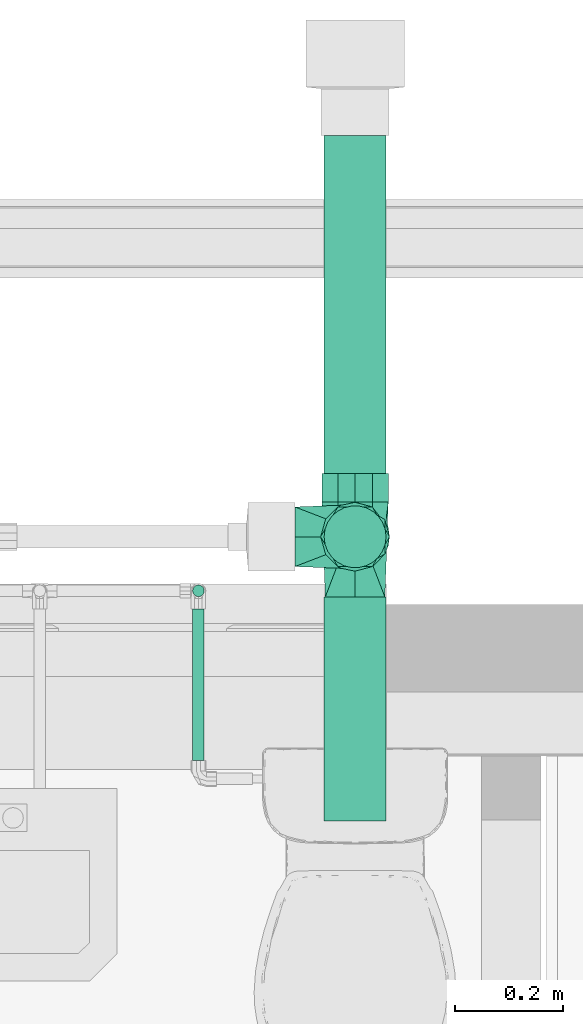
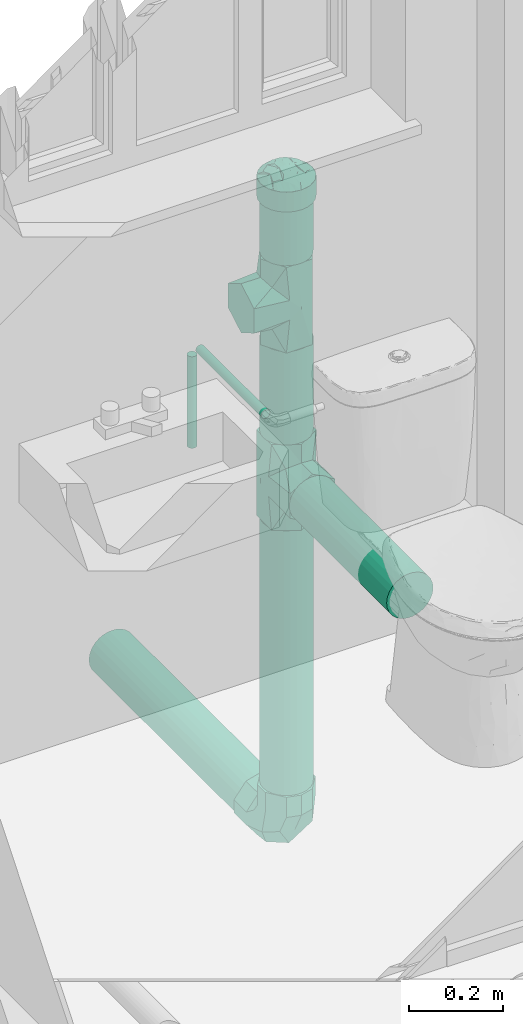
# One storey, part 25 of 41: 7 flow segments, 4 flow fittings.
"""IFC2X3 building model written with IfcOpenShell, lengths in millimetres."""

from ifc_helpers import new_model, entity, si_unit, converted_unit, derived_unit, direction, frame, frame_2d, origin, origin_2d_with_axis, place, context, subcontext, project, spatial, circle, extrude, faceted_brep, source, transform, mapped, type_object, type_shapes, element, save


model = new_model("IFC2X3")

# Units and contexts
model_context = context("Model", 3, precision=0.01, world=origin(), true_north=direction((6.12303176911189e-17, 1.0)))
body_context = subcontext(model_context, "Body", "Model", "MODEL_VIEW")
ifc_project = project(units=[si_unit("LENGTHUNIT", "METRE", prefix="MILLI"), si_unit("AREAUNIT", "SQUARE_METRE"), si_unit("VOLUMEUNIT", "CUBIC_METRE"), converted_unit("PLANEANGLEUNIT", "DEGREE", entity("IfcRatioMeasure", 0.0174532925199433), si_unit("PLANEANGLEUNIT", "RADIAN"), dimensions=[0, 0, 0, 0, 0, 0, 0]), si_unit("MASSUNIT", "GRAM", prefix="KILO"), derived_unit("MASSDENSITYUNIT", [(si_unit("MASSUNIT", "GRAM", prefix="KILO"), 1), (si_unit("LENGTHUNIT", "METRE"), -3)]), si_unit("TIMEUNIT", "SECOND"), si_unit("FREQUENCYUNIT", "HERTZ"), si_unit("THERMODYNAMICTEMPERATUREUNIT", "DEGREE_CELSIUS"), derived_unit("THERMALTRANSMITTANCEUNIT", [(si_unit("MASSUNIT", "GRAM", prefix="KILO"), 1), (si_unit("THERMODYNAMICTEMPERATUREUNIT", "KELVIN"), -1), (si_unit("TIMEUNIT", "SECOND"), -3)]), derived_unit("VOLUMETRICFLOWRATEUNIT", [(si_unit("LENGTHUNIT", "METRE"), 3), (si_unit("TIMEUNIT", "SECOND"), -1)]), si_unit("ELECTRICCURRENTUNIT", "AMPERE"), si_unit("ELECTRICVOLTAGEUNIT", "VOLT"), si_unit("POWERUNIT", "WATT"), si_unit("FORCEUNIT", "NEWTON", prefix="KILO"), si_unit("ILLUMINANCEUNIT", "LUX"), si_unit("LUMINOUSFLUXUNIT", "LUMEN"), si_unit("LUMINOUSINTENSITYUNIT", "CANDELA"), derived_unit("USERDEFINED", [(si_unit("MASSUNIT", "GRAM", prefix="KILO"), -1), (si_unit("LENGTHUNIT", "METRE"), -2), (si_unit("TIMEUNIT", "SECOND"), 3), (si_unit("LUMINOUSFLUXUNIT", "LUMEN"), 1)]), derived_unit("LINEARVELOCITYUNIT", [(si_unit("LENGTHUNIT", "METRE"), 1), (si_unit("TIMEUNIT", "SECOND"), -1)]), si_unit("PRESSUREUNIT", "PASCAL"), derived_unit("USERDEFINED", [(si_unit("LENGTHUNIT", "METRE"), -2), (si_unit("MASSUNIT", "GRAM", prefix="KILO"), 1), (si_unit("TIMEUNIT", "SECOND"), -2)])], contexts=[model_context])

# Site, building, storey
site_placement = place(None, origin())
site = spatial("IfcSite", under=ifc_project, at=site_placement, Name="Surface", CompositionType="ELEMENT")
building_placement = place(site_placement, origin())
building = spatial("IfcBuilding", under=site, at=building_placement, CompositionType="ELEMENT")
storey_placement = place(building_placement, frame((0.0, 0.0, 300.0)))
storey = spatial("IfcBuildingStorey", under=building, at=storey_placement, Name="F.F.L", CompositionType="ELEMENT", Elevation=300.0)

# Flow segments
pipe_segment_type = type_object("IfcPipeSegmentType", Name="Pipe Types:PVC80", PredefinedType="NOTDEFINED")
flow_segment_1_placement = place(storey_placement, origin())
element("IfcFlowSegment", 1, at=flow_segment_1_placement, inside=storey, type_object=pipe_segment_type, Name="Pipe Types:PVC80", ObjectType="Pipe Types:PVC80", context=body_context, shape_type="SweptSolid", body=[
    extrude(circle(Radius=57.15, at=frame_2d((0.0, -6.76791955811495e-14), x_axis=(1.0, 0.0))), frame((-1290.12925728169, 10425.8400891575, 185.0), z_axis=(0.0, 1.0, 0.0), x_axis=(1.0, 0.0, 0.0)), (0.0, 0.0, 1.0), 413.518830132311),
])
flow_segment_2_placement = place(storey_placement, origin())
element("IfcFlowSegment", 2, at=flow_segment_2_placement, inside=storey, type_object=pipe_segment_type, Name="Pipe Types:PVC80", ObjectType="Pipe Types:PVC80", context=body_context, shape_type="SweptSolid", body=[
    extrude(circle(Radius=10.668, at=frame_2d((0.0, -4.399593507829e-27), x_axis=(1.0, 0.0))), frame((-1579.03439711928, 10537.5776391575, 688.0), z_axis=(0.0, 1.0, 0.0), x_axis=(1.0, 0.0, 0.0)), (0.0, 0.0, 1.0), 279.524900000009),
])
flow_segment_3_placement = place(storey_placement, origin())
element("IfcFlowSegment", 3, at=flow_segment_3_placement, inside=storey, type_object=pipe_segment_type, Name="Pipe Types:PVC80", ObjectType="Pipe Types:PVC80", context=body_context, shape_type="SweptSolid", body=[
    extrude(circle(Radius=10.668, at=origin_2d_with_axis()), frame((-1579.03439711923, 10850.8400891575, 416.937550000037)), (0.0, 0.0, 1.0), 237.324899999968),
])
flow_segment_4_placement = place(storey_placement, origin())
element("IfcFlowSegment", 4, at=flow_segment_4_placement, inside=storey, type_object=pipe_segment_type, Name="Pipe Types:PVC80", ObjectType="Pipe Types:PVC80", context=body_context, shape_type="SweptSolid", body=[
    extrude(circle(Radius=57.15, at=frame_2d((2.70716782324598e-13, 0.0), x_axis=(1.0, 0.0))), frame((-1290.12925728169, 10950.4839192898, -612.593982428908)), (0.0, 0.0, 1.0), 686.468982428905),
])
flow_segment_5_placement = place(storey_placement, origin())
element("IfcFlowSegment", 5, at=flow_segment_5_placement, inside=storey, type_object=pipe_segment_type, Name="Pipe Types:PVC80", ObjectType="Pipe Types:PVC80", context=body_context, shape_type="SweptSolid", body=[
    extrude(circle(Radius=57.15, at=origin_2d_with_axis()), frame((-1290.12925728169, 11067.1778692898, -729.287932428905), z_axis=(0.0, 1.0, 0.0), x_axis=(1.0, 0.0, 0.0)), (0.0, 0.0, 1.0), 623.386910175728),
])
flow_segment_6_placement = place(storey_placement, origin())
element("IfcFlowSegment", 6, at=flow_segment_6_placement, inside=storey, type_object=pipe_segment_type, Name="Pipe Types:PVC80", ObjectType="Pipe Types:PVC80", context=body_context, shape_type="SweptSolid", body=[
    extrude(circle(Radius=57.15, at=origin_2d_with_axis()), frame((-1290.12925728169, 10950.4839192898, 296.124999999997)), (0.0, 0.0, 1.0), 242.798268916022),
])
flow_segment_7_placement = place(storey_placement, origin())
element("IfcFlowSegment", 7, at=flow_segment_7_placement, inside=storey, type_object=pipe_segment_type, Name="Pipe Types:PVC80", ObjectType="Pipe Types:PVC80", context=body_context, shape_type="SweptSolid", body=[
    extrude(circle(Radius=57.15, at=frame_2d((2.70716782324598e-13, 0.0), x_axis=(1.0, 0.0))), frame((-1290.12925728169, 10950.4839192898, 761.173268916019)), (0.0, 0.0, 1.0), 143.626731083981),
])

# Flow fittings
pipe_fitting_type_1 = type_object("IfcPipeFittingType", Name="Standard", PredefinedType="NOTDEFINED")
shared_shape_1 = source(origin(), body_context, "Body", "Brep", [
    faceted_brep([(66.679346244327, -45.2148932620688, 0.0), (51.5620000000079, -58.6663503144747, -24.3003979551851), (51.5620000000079, -55.2250828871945, -29.4506186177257), (51.5620000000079, -51.7838154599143, -34.6008392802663), (78.6850877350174, -5.87474337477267, 0.0), (76.5302596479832, -2.59069976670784, -22.2792195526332), (79.5020000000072, 0.0, 0.0), (72.2081607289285, 6.22854437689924, -34.123725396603), (78.6850877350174, 5.87474337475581, 0.0), (62.3794828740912, 4.72839519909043, -51.3220747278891), (66.2199387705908, 11.5179296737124, -44.4844676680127), (53.6983143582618, -60.916032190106, 0.0), (51.5620000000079, -63.5000000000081, 0.0), (51.5620000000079, -62.6595251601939, -4.22535235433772), (51.5620000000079, -61.8190503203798, -8.45070470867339), (51.5620000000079, -60.1381006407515, -16.9014094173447), (63.3933018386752, -49.1895110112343, 0.0), (60.1072574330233, -53.1641287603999, 0.0), (55.8346287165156, -58.332064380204, 0.0), (51.5620000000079, 60.138100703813, -16.9014091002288), (51.5620000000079, 61.8190503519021, -8.45070455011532), (51.5620000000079, 62.6595251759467, -4.22535227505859), (51.5620000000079, 63.4999999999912, 0.0), (53.6983143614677, 60.9160321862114, 0.0), (55.8346287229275, 58.3320643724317, 0.0), (60.1072574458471, 53.1641287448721, 0.0), (63.393301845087, 49.189511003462, 0.0), (66.679346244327, 45.2148932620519, 0.0), (51.5620000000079, 58.666350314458, -24.3003979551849), (63.6873696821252, 45.2556517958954, -20.6403225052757), (65.0659754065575, 40.340853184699, -25.5135279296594), (51.5620000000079, 44.9012806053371, -44.9012806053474), (76.2343509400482, 23.4989734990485, 0.0), (67.5243727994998, 34.3600083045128, -27.1876913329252), (73.8455997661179, 28.9279534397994, 0.0), (51.5620000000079, 48.3425480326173, -39.7510599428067), (51.5620000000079, 51.7838154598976, -34.6008392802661), (65.3302524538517, -18.3321515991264, -43.6382086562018), (51.5620000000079, -24.3003979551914, -58.6663503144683), (51.5620000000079, -18.2252984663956, -59.8747627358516), (51.5620000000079, -12.1501989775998, -61.0831751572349), (61.3419750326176, -9.36308218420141, -52.0649504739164), (67.5737117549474, -27.8805189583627, -33.6918068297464), (69.7049697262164, -1.10291101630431, -39.8800753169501), (77.0512632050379, -17.6242301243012, 0.0), (73.9855221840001, -19.8135311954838, -22.9619444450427), (77.8681754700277, -11.7494867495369, 0.0), (65.0659741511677, -40.3408530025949, -25.5135317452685), (73.8455997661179, -28.9279534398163, 0.0), (71.4568485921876, -34.3569333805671, 0.0), (63.6873669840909, -45.2556536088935, -20.6403277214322), (51.5620000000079, -48.3425480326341, -39.7510599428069), (51.5620000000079, -44.9012806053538, -44.9012806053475), (67.4407149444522, -34.3809909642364, -27.3884628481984), (76.2343509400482, -23.4989734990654, 0.0), (77.0512632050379, 17.6242301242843, 0.0), (75.0617680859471, 18.0330959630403, -20.4928784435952), (67.5090288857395, 27.9542914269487, -33.7729719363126), (75.2304434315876, -13.4513354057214, -23.1651882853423), (70.0928968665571, -8.76552330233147, -38.150090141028), (51.5620000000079, 24.3003979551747, -58.6663503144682), (68.6687386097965, 18.1638290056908, -37.6674086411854), (51.5620000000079, 18.2252984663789, -59.8747627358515), (74.1566766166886, 12.9333676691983, -26.9245465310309), (77.8681754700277, 11.7494867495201, 0.0), (51.5620000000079, 29.4506186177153, -55.225082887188), (51.5620000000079, 34.6008392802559, -51.7838154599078), (71.4568485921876, 34.3569333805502, 0.0), (51.5620000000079, 39.7510599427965, -48.3425480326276), (69.0680974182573, 39.7859133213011, 0.0), (51.5620000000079, 0.0, -63.5000000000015), (69.0680974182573, -39.7859133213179, 0.0), (51.5620000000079, -39.7510599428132, -48.3425480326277), (51.5620000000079, -34.6008392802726, -51.7838154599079), (51.5620000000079, -29.450618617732, -55.2250828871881), (51.5620000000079, -6.07509948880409, -62.2915875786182), (51.5620000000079, 12.1501989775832, -61.0831751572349), (51.5620000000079, 6.07509948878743, -62.2915875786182), (51.5620000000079, 55.2250828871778, -29.4506186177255), (51.5620000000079, 58.6663503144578, 24.3003979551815), (51.5620000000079, 55.2250828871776, 29.4506186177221), (51.5620000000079, 51.7838154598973, 34.6008392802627), (76.5302593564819, 2.59069969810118, 22.2792206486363), (72.2081607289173, -6.22854404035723, 34.1237254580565), (62.3794827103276, -4.72839539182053, 51.3220749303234), (66.2199393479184, -11.5179295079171, 44.4844667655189), (51.5620000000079, -58.6663503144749, 24.300397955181), (51.5620000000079, -60.1381007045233, 16.9014090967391), (51.5620000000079, -61.8190503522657, 8.45070454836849), (51.5620000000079, -62.6595251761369, 4.22535227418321), (67.4407172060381, 34.3809907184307, 27.3884570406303), (63.6873696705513, -45.2556517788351, 20.6403225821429), (65.065975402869, -40.3408531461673, 25.5135280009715), (51.5620000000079, -44.9012806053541, 44.9012806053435), (67.5243730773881, -34.3600081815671, 27.1876907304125), (51.5620000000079, 62.6595251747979, 4.22535228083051), (51.5620000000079, 61.8190503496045, 8.45070456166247), (51.5620000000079, 60.1381006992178, 16.9014091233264), (65.3302515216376, 18.3321520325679, 43.6382100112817), (51.5620000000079, 12.1501989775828, 61.0831751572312), (61.3419747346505, 9.36308244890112, 52.0649508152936), (51.5620000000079, 24.3003979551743, 58.6663503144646), (51.5620000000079, 18.2252984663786, 59.8747627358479), (67.5737113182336, 27.8805198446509, 33.6918070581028), (69.7049691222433, 1.10291147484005, 39.8800764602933), (73.9855219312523, 19.8135312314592, 22.961945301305), (65.0659754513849, 40.3408531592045, 25.5135278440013), (63.6873697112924, 45.2556517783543, 20.6403224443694), (51.5620000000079, 48.3425480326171, 39.7510599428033), (51.5620000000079, 44.9012806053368, 44.9012806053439), (51.5620000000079, -48.3425480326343, 39.7510599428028), (51.5620000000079, -51.7838154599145, 34.6008392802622), (75.0617681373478, -18.0330961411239, 20.4928780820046), (67.5090287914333, -27.9542914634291, 33.7729721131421), (75.230443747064, 13.4513352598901, 23.1651872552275), (70.0928964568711, 8.76552404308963, 38.1500907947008), (51.5620000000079, -24.3003979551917, 58.6663503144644), (68.6687387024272, -18.1638288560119, 37.6674085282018), (51.5620000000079, -18.225298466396, 59.8747627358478), (74.1566771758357, -12.9333675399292, 26.9245449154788), (51.5620000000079, -29.4506186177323, 55.2250828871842), (51.5620000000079, -34.6008392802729, 51.7838154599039), (51.5620000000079, -39.7510599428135, 48.3425480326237), (51.5620000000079, 34.6008392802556, 51.7838154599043), (51.5620000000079, 0.0, 63.4999999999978), (51.5620000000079, 39.7510599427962, 48.3425480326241), (51.5620000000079, 29.450618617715, 55.2250828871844), (51.5620000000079, 6.07509948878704, 62.2915875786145), (51.5620000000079, -12.1501989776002, 61.0831751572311), (51.5620000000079, -6.07509948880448, 62.2915875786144), (51.5620000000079, -55.2250828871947, 29.4506186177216), (51.5620000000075, 0.0, 0.0)], [[[0, 1, 2, 3]], [[4, 5, 6]], [[7, 8, 5]], [[9, 10, 7]], [[11, 12, 13, 14, 15, 1, 0, 16, 17, 18]], [[19, 20, 21, 22, 23, 24, 25, 26, 27, 28]], [[29, 30, 31]], [[32, 33, 34]], [[35, 36, 29, 31]], [[37, 38, 39, 40]], [[41, 37, 40]], [[42, 38, 37]], [[7, 5, 43]], [[44, 45, 46]], [[47, 48, 49]], [[50, 3, 51, 52]], [[53, 54, 48]], [[55, 56, 57]], [[5, 58, 59]], [[60, 61, 62]], [[43, 9, 7]], [[10, 62, 61]], [[10, 63, 7]], [[32, 57, 33]], [[64, 63, 56]], [[65, 66, 57, 60]], [[67, 34, 30]], [[66, 33, 57]], [[33, 68, 30]], [[34, 33, 30]], [[36, 69, 29]], [[57, 32, 55]], [[67, 29, 69]], [[30, 29, 67]], [[46, 45, 58]], [[43, 70, 9]], [[45, 42, 37]], [[3, 50, 71]], [[54, 53, 42]], [[53, 47, 72]], [[42, 73, 74, 38]], [[49, 50, 47]], [[47, 52, 72]], [[72, 73, 53]], [[53, 48, 47]], [[71, 50, 49]], [[47, 50, 52]], [[3, 71, 0]], [[44, 54, 42]], [[42, 45, 44]], [[58, 37, 59]], [[37, 58, 45]], [[43, 5, 59]], [[5, 4, 58]], [[4, 46, 58]], [[63, 8, 7]], [[41, 40, 75, 70]], [[6, 5, 8]], [[59, 41, 43]], [[76, 9, 70, 77]], [[62, 10, 76]], [[43, 41, 70]], [[37, 41, 59]], [[10, 9, 76]], [[63, 10, 61]], [[56, 63, 61]], [[8, 63, 64]], [[57, 56, 61]], [[55, 64, 56]], [[27, 36, 78, 28]], [[36, 27, 69]], [[61, 60, 57]], [[68, 33, 66]], [[68, 31, 30]], [[73, 42, 53]], [[27, 79, 80, 81]], [[8, 82, 6]], [[83, 4, 82]], [[84, 85, 83]], [[11, 18, 17, 16, 0, 86, 87, 88, 89, 12]], [[90, 32, 34]], [[91, 92, 93]], [[54, 94, 48]], [[79, 27, 26, 25, 24, 23, 22, 95, 96, 97]], [[98, 99, 100]], [[98, 101, 102, 99]], [[103, 101, 98]], [[83, 82, 104]], [[55, 105, 64]], [[106, 34, 67]], [[107, 81, 108, 109]], [[110, 111, 91, 93]], [[44, 112, 113]], [[82, 114, 115]], [[116, 117, 118]], [[104, 84, 83]], [[85, 118, 117]], [[85, 119, 83]], [[54, 113, 94]], [[46, 119, 112]], [[120, 121, 113, 116]], [[49, 48, 92]], [[121, 94, 113]], [[94, 122, 92]], [[48, 94, 92]], [[123, 103, 90]], [[111, 71, 91]], [[113, 54, 44]], [[49, 91, 71]], [[92, 91, 49]], [[64, 105, 114]], [[104, 124, 84]], [[105, 103, 98]], [[81, 107, 69]], [[32, 90, 103]], [[90, 106, 125]], [[103, 123, 126, 101]], [[67, 107, 106]], [[106, 109, 125]], [[125, 123, 90]], [[90, 34, 106]], [[69, 107, 67]], [[106, 107, 109]], [[81, 69, 27]], [[55, 32, 103]], [[103, 105, 55]], [[114, 98, 115]], [[98, 114, 105]], [[104, 82, 115]], [[82, 8, 114]], [[8, 64, 114]], [[119, 4, 83]], [[100, 99, 127, 124]], [[6, 82, 4]], [[115, 100, 104]], [[128, 84, 124, 129]], [[118, 85, 128]], [[104, 100, 124]], [[98, 100, 115]], [[85, 84, 128]], [[119, 85, 117]], [[112, 119, 117]], [[4, 119, 46]], [[113, 112, 117]], [[44, 46, 112]], [[0, 111, 130, 86]], [[111, 0, 71]], [[117, 116, 113]], [[122, 94, 121]], [[122, 93, 92]], [[131, 1, 15]], [[131, 15, 14]], [[131, 14, 13]], [[131, 13, 12]], [[131, 12, 89]], [[131, 2, 1]], [[131, 3, 2]], [[131, 51, 3]], [[131, 52, 51]], [[131, 72, 52]], [[131, 73, 72]], [[131, 74, 73]], [[131, 38, 74]], [[131, 39, 38]], [[131, 40, 39]], [[131, 75, 40]], [[131, 70, 75]], [[131, 77, 70]], [[131, 76, 77]], [[131, 62, 76]], [[131, 60, 62]], [[131, 65, 60]], [[131, 66, 65]], [[131, 68, 66]], [[131, 31, 68]], [[131, 35, 31]], [[131, 36, 35]], [[131, 78, 36]], [[131, 28, 78]], [[131, 19, 28]], [[131, 20, 19]], [[131, 21, 20]], [[131, 22, 21]], [[131, 89, 88]], [[131, 88, 87]], [[131, 87, 86]], [[131, 86, 130]], [[131, 130, 111]], [[131, 111, 110]], [[131, 110, 93]], [[131, 93, 122]], [[131, 122, 121]], [[131, 121, 120]], [[131, 120, 116]], [[131, 116, 118]], [[131, 118, 128]], [[131, 128, 129]], [[131, 129, 124]], [[131, 124, 127]], [[131, 95, 22]], [[131, 96, 95]], [[131, 97, 96]], [[131, 79, 97]], [[131, 80, 79]], [[131, 81, 80]], [[131, 108, 81]], [[131, 109, 108]], [[131, 125, 109]], [[131, 123, 125]], [[131, 126, 123]], [[131, 101, 126]], [[131, 127, 99]], [[131, 99, 102]], [[131, 102, 101]]]),
    faceted_brep([(51.5620000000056, 16.4350093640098, -61.3362899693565), (51.5620000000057, 31.7499999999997, -54.9926131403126), (51.5620000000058, 44.9012806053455, -44.9012806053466), (51.5620000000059, 54.9926131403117, -31.7500000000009), (51.5620000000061, 61.3362899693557, -16.435009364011), (51.5620000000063, 63.5, 0.0), (51.5620000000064, 61.3362899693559, 16.4350093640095), (51.5620000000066, 54.9926131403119, 31.7499999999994), (51.5620000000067, 44.9012806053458, 44.9012806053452), (51.5620000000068, 31.7500000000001, 54.9926131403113), (51.5620000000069, 16.4350093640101, 61.3362899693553), (51.5620000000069, 0.0, 63.4999999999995), (51.5620000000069, -16.43500936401, 61.3362899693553), (51.5620000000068, -31.7499999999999, 54.9926131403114), (51.5620000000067, -44.9012806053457, 44.9012806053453), (51.5620000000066, -54.9926131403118, 31.7499999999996), (51.5620000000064, -61.3362899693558, 16.4350093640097), (51.5620000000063, -63.5, 0.0), (51.5620000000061, -61.3362899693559, -16.4350093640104), (51.5620000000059, -54.992613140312, -31.7500000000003), (51.5620000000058, -44.9012806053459, -44.9012806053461), (51.5620000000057, -31.7500000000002, -54.9926131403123), (51.5620000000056, -16.4350093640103, -61.3362899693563), (51.5620000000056, 0.0, -63.5000000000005), (0.0, 0.0, 63.5), (0.0, 16.4350093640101, 61.3362899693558), (0.0, 31.7500000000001, 54.9926131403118), (0.0, 44.9012806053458, 44.9012806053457), (0.0, 54.9926131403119, 31.75), (0.0, 61.3362899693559, 16.4350093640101), (0.0, 63.5, 0.0), (0.0, 61.3362899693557, -16.4350093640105), (0.0, 54.9926131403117, -31.7500000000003), (0.0, 44.9012806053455, -44.901280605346), (0.0, 31.7499999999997, -54.992613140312), (0.0, 16.4350093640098, -61.3362899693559), (0.0, 0.0, -63.5), (0.0, -16.4350093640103, -61.3362899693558), (0.0, -31.7500000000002, -54.9926131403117), (0.0, -44.9012806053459, -44.9012806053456), (0.0, -54.992613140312, -31.7499999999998), (0.0, -61.3362899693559, -16.4350093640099), (0.0, -63.5, 0.0), (0.0, -61.3362899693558, 16.4350093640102), (0.0, -54.9926131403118, 31.7500000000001), (0.0, -44.9012806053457, 44.9012806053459), (0.0, -31.7499999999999, 54.9926131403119), (0.0, -16.43500936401, 61.3362899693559)], [[[0, 1, 2, 3, 4, 5, 6, 7, 8, 9, 10, 11, 12, 13, 14, 15, 16, 17, 18, 19, 20, 21, 22, 23]], [[24, 25, 26, 27, 28, 29, 30, 31, 32, 33, 34, 35, 36, 37, 38, 39, 40, 41, 42, 43, 44, 45, 46, 47]], [[41, 18, 17, 42]], [[40, 19, 18, 41]], [[40, 39, 20, 19]], [[39, 38, 21, 20]], [[37, 22, 21, 38]], [[23, 22, 37, 36]], [[0, 35, 34, 1]], [[33, 2, 1, 34]], [[3, 32, 31, 4]], [[33, 32, 3, 2]], [[4, 31, 30, 5]], [[35, 0, 23, 36]], [[29, 6, 5, 30]], [[28, 7, 6, 29]], [[9, 8, 27, 26]], [[28, 27, 8, 7]], [[10, 9, 26, 25]], [[10, 25, 24, 11]], [[12, 47, 46, 13]], [[45, 14, 13, 46]], [[15, 44, 43, 16]], [[45, 44, 15, 14]], [[16, 43, 42, 17]], [[47, 12, 11, 24]]]),
])
type_shapes(pipe_fitting_type_1, [shared_shape_1])
flow_fitting_1_placement = place(storey_placement, frame((-1290.12925728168, 10950.4839192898, 904.799999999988), z_axis=(0.0, 1.0, 0.0), x_axis=(0.0, 0.0, 1.0)))
element("IfcFlowFitting", 8, at=flow_fitting_1_placement, inside=storey, type_object=pipe_fitting_type_1, Name="M_Cap - PVC - Sch 40:Standard", ObjectType="Standard", context=body_context, shape_type="MappedRepresentation", body=[
    mapped(shared_shape_1, transform((0.0, 0.0, 0.0), scale=1.0)),
])
pipe_fitting_type_2 = type_object("IfcPipeFittingType", Name="Standard", PredefinedType="NOTDEFINED")
shared_shape_2 = source(origin(), body_context, "Body", "Brep", [
    faceted_brep([(-111.124999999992, 31.7499999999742, 54.9926131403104), (-111.124999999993, 47.6249999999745, 27.4963065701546), (-111.124999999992, 63.4999999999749, 0.0), (-111.124999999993, 44.5212450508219, -32.8721678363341), (-111.124999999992, 31.7499999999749, -54.9926131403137), (-111.124999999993, 0.0, -54.9926131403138), (-111.124999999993, -31.750000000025, -54.9926131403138), (-111.124999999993, -47.6250000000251, -27.4963065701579), (-111.124999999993, -63.5000000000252, 0.0), (-111.124999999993, -47.6250000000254, 27.4963065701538), (-111.124999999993, -31.7500000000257, 54.9926131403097), (-111.124999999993, 0.0, 54.99261314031), (111.125000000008, 31.7499999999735, 54.9926131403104), (111.125000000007, 0.0, 54.99261314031), (111.125000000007, -31.7500000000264, 54.9926131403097), (111.125000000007, -47.6250000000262, 27.4963065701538), (111.125000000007, -63.5000000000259, 0.0), (111.125000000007, -47.6250000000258, -27.4963065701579), (111.125000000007, -31.7500000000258, -54.9926131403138), (111.125000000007, 0.0, -54.9926131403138), (111.125000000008, 31.7499999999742, -54.9926131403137), (111.125000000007, 47.6249999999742, -27.4963065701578), (111.125000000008, 63.4999999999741, 0.0), (111.125000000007, 44.5212464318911, 32.8721654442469), (63.5000000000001, -63.5000000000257, 0.0), (-63.4999999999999, -63.5000000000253, 0.0), (54.1778262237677, -54.1778262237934, 33.1211887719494), (25.3375161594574, -25.3375161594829, 58.2259415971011), (0.0, 0.0, 63.4999999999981), (-54.1778262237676, -54.177826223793, 33.1211887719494), (-25.3375161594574, -25.3375161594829, 58.225941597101), (25.3375161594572, -25.3375161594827, -58.2259415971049), (0.0, 0.0, -63.5000000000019), (-54.1778262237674, -54.1778262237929, -33.1211887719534), (-25.3375161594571, -25.3375161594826, -58.2259415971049), (54.1778262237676, -54.1778262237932, -33.1211887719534), (31.7499999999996, -111.125000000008, 54.9926131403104), (0.0, -111.125000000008, 54.99261314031), (-31.7500000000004, -111.125000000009, 54.9926131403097), (-47.6250000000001, -111.125000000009, 27.4963065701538), (-63.4999999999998, -111.125000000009, 0.0), (-47.6249999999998, -111.125000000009, -27.4963065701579), (-31.7499999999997, -111.125000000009, -54.9926131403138), (0.0, -111.125000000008, -54.9926131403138), (31.7500000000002, -111.125000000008, -54.9926131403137), (47.6250000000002, -111.125000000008, -27.4963065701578), (63.5000000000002, -111.125000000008, 0.0), (47.6249999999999, -111.125000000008, 27.4963065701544)], [[[0, 1, 2, 3, 4, 5, 6, 7, 8, 9, 10, 11]], [[12, 13, 14, 15, 16, 17, 18, 19, 20, 21, 22, 23]], [[16, 15, 24]], [[9, 8, 25]], [[22, 2, 1, 0, 12, 23]], [[26, 15, 14]], [[27, 13, 28]], [[25, 29, 9]], [[30, 10, 29]], [[24, 15, 26]], [[29, 10, 9]], [[27, 14, 13]], [[28, 13, 12]], [[11, 10, 30]], [[28, 0, 11]], [[0, 28, 12]], [[11, 30, 28]], [[27, 26, 14]], [[20, 4, 3, 2, 22, 21]], [[31, 19, 18]], [[32, 19, 31]], [[4, 32, 5]], [[25, 7, 33]], [[20, 32, 4]], [[5, 34, 6]], [[34, 5, 32]], [[32, 20, 19]], [[17, 16, 24]], [[8, 7, 25]], [[24, 35, 17]], [[6, 33, 7]], [[6, 34, 33]], [[35, 18, 17]], [[31, 18, 35]], [[36, 37, 38, 39, 40, 41, 42, 43, 44, 45, 46, 47]], [[39, 38, 29]], [[25, 39, 29]], [[25, 40, 39]], [[30, 29, 38]], [[30, 38, 37, 36, 27]], [[47, 46, 24]], [[47, 24, 26]], [[26, 36, 47]], [[30, 27, 28]], [[26, 27, 36]], [[45, 44, 35]], [[24, 45, 35]], [[24, 46, 45]], [[31, 35, 44]], [[43, 42, 34, 31, 44]], [[41, 40, 25]], [[34, 32, 31]], [[41, 25, 33]], [[33, 42, 41]], [[33, 34, 42]]]),
])
type_shapes(pipe_fitting_type_2, [shared_shape_2])
for number, where, z_axis, x_axis, name in (
    (9, (-1290.12925728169, 10950.4839192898, 185.0), (-1.0, 0.0, 0.0), (0.0, 0.0, 1.0), "M_Tee - PVC - Sch 40:Standard"),
    (10, (-1290.12925728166, 10950.4839192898, 650.048268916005), (0.0, 1.0, 0.0), (0.0, 0.0, 1.0), "M_Tee - PVC - Sch 40:Standard"),
):
    element("IfcFlowFitting", number, at=place(storey_placement, frame(where, z_axis=z_axis, x_axis=x_axis)), inside=storey, type_object=pipe_fitting_type_2, Name=name, ObjectType="Standard", context=body_context, shape_type="MappedRepresentation", body=[
        mapped(shared_shape_2, transform((0.0, 0.0, 0.0), scale=1.0)),
    ])
pipe_fitting_type_3 = type_object("IfcPipeFittingType", Name="Standard", PredefinedType="NOTDEFINED")
shared_shape_3 = source(origin(), body_context, "Body", "Brep", [
    faceted_brep([(-116.69394999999, -16.4350093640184, -61.3362899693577), (-116.693949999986, -54.9926131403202, -31.750000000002), (-116.693949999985, -63.5000000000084, 0.0), (-116.693949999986, -54.9926131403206, 31.7499999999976), (-116.69394999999, -16.4350093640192, 61.3362899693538), (-116.693949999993, 16.435009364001, 61.3362899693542), (-116.693949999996, 54.9926131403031, 31.7499999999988), (-116.693949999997, 63.4999999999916, 0.0), (-116.693949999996, 54.9926131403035, -31.7500000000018), (-116.693949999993, 16.4350093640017, -61.3362899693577), (-64.2937499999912, -63.5000000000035, 0.0), (-64.2937499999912, -54.9926131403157, 31.7499999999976), (-64.2937499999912, -16.4350093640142, 61.3362899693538), (-64.2937499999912, 16.4350093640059, 61.3362899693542), (16.4350093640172, 116.693949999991, 61.3362899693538), (-16.4350093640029, 116.693949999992, 61.3362899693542), (-16.4350093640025, 64.2937499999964, 61.3362899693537), (16.4350093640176, 64.2937499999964, 61.3362899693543), (-64.2937499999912, 54.992613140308, 31.7499999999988), (-64.2937499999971, 63.4999999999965, 0.0), (-64.2937499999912, 54.9926131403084, -31.7500000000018), (-64.2937499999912, 16.4350093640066, -61.3362899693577), (-64.2937499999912, -16.4350093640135, -61.3362899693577), (-16.4350093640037, 116.693949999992, -61.3362899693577), (16.4350093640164, 116.693949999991, -61.3362899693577), (16.4350093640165, 64.2937499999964, -61.3362899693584), (-16.4350093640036, 64.2937499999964, -61.3362899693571), (-64.2937499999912, -54.9926131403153, -31.750000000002), (-1.84954774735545, 1.84954166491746, 58.7834716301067), (-22.4375974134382, -41.2705704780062, 40.0641295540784), (-9.78574902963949, -35.7267863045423, 0.0), (40.7396863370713, 19.0899363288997, 39.0748930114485), (54.9926131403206, 64.2937499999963, 31.7499999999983), (39.0935655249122, -10.8215315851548, 0.0), (-63.7324839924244, 63.7324839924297, 0.0), (-54.992613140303, 64.2937499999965, 31.7499999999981), (-37.3963380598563, 37.396337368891, 57.8180038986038), (63.5000000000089, 64.2937499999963, 0.0), (-63.4999999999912, 64.2937499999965, 0.0), (-22.4375972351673, -41.2705704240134, -40.0641295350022), (40.7396861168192, 19.0899365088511, -39.0748933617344), (-1.84954687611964, 1.84954159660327, -58.7834713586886), (-54.9926131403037, 64.2937499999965, -31.7500000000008), (-37.3963376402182, 37.39633706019, -57.8180041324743), (54.99261314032, 64.2937499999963, -31.7500000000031), (-54.9926131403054, 116.693949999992, -31.7500000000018), (-63.4999999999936, 116.693949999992, 0.0), (-54.992613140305, 116.693949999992, 31.7499999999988), (54.9926131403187, 116.693949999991, 31.7499999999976), (63.5000000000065, 116.693949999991, 0.0), (54.9926131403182, 116.693949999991, -31.750000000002)], [[[0, 1, 2, 3, 4, 5, 6, 7, 8, 9]], [[2, 10, 11, 3]], [[3, 11, 12, 4]], [[12, 13, 5, 4]], [[14, 15, 16, 17]], [[5, 13, 18, 6]], [[6, 18, 19, 7]], [[7, 19, 20, 8]], [[8, 20, 21, 9]], [[21, 22, 0, 9]], [[23, 24, 25, 26]], [[0, 22, 27, 1]], [[1, 27, 10, 2]], [[12, 28, 13]], [[29, 11, 30]], [[29, 31, 28]], [[28, 12, 29]], [[32, 31, 33]], [[34, 18, 35]], [[18, 36, 35]], [[34, 19, 18]], [[18, 13, 36]], [[11, 10, 30]], [[29, 33, 31]], [[33, 37, 32]], [[33, 29, 30]], [[32, 17, 31]], [[28, 36, 13]], [[34, 35, 38]], [[29, 12, 11]], [[36, 16, 35]], [[36, 28, 16]], [[17, 28, 31]], [[16, 28, 17]], [[20, 19, 34]], [[39, 40, 33]], [[39, 41, 40]], [[20, 42, 43]], [[39, 30, 27]], [[41, 21, 43]], [[44, 40, 25]], [[41, 43, 26]], [[27, 30, 10]], [[20, 34, 42]], [[42, 26, 43]], [[41, 25, 40]], [[39, 27, 22]], [[25, 41, 26]], [[40, 44, 33]], [[22, 21, 41]], [[44, 37, 33]], [[22, 41, 39]], [[39, 33, 30]], [[20, 43, 21]], [[42, 34, 38]], [[23, 45, 46, 47, 15, 14, 48, 49, 50, 24]], [[37, 49, 48, 32]], [[32, 48, 14, 17]], [[16, 15, 47, 35]], [[35, 47, 46, 38]], [[38, 46, 45, 42]], [[42, 45, 23, 26]], [[25, 24, 50, 44]], [[44, 50, 49, 37]]]),
])
type_shapes(pipe_fitting_type_3, [shared_shape_3])
flow_fitting_2_placement = place(storey_placement, frame((-1290.12925728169, 10950.4839192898, -729.287932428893), z_axis=(1.0, 0.0, 0.0), x_axis=(0.0, 0.0, -1.0)))
element("IfcFlowFitting", 11, at=flow_fitting_2_placement, inside=storey, type_object=pipe_fitting_type_3, Name="M_Elbow - PVC - Sch 40:Standard", ObjectType="Standard", context=body_context, shape_type="MappedRepresentation", body=[
    mapped(shared_shape_3, transform((0.0, 0.0, 0.0), scale=1.0)),
])

save(model, "model.ifc")
